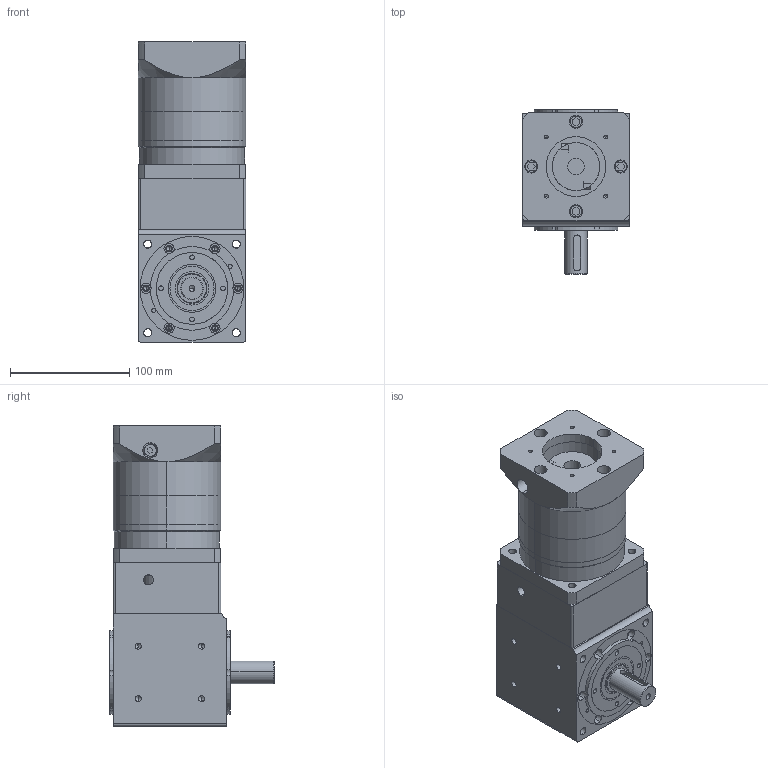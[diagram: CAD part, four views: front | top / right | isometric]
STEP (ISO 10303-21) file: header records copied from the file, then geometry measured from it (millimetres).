
FILE_DESCRIPTION (( 'STEP AP203' ), '1' );
FILE_NAME ('PVFD090-L2(400W）.STEP', '2021-09-06T10:05:33', ( 'User' ), ( 'China' ), 'SwSTEP 2.0', 'SolidWorks 2015', '' );
FILE_SCHEMA (( 'CONFIG_CONTROL_DESIGN' ));
Length unit declared in the file: millimetre
Products named in the file (13): PVFD090標杶; PVFD090蹟譫; PVFD090怀堤粣; PLF090单级三维图400W; PVFD090输入轴; PVFDo9o眊极; 25-40-7蚐猾; PVFD090͹̨; PVFD090单轴装配图   （750W）; deep groove ball bearings gb_Rolling bearings 6005 GB 276-94; PVFD090-L2(400W）; tapered roller bearings gb_Rolling bearings 32005 GB 297-94; PVFD090綴楊擘
Assembly tree (16 placements, depth 3):
  PVFD090-L2(400W）
    PLF090单级三维图400W
    PVFD090单轴装配图   （750W）
      PVFDo9o眊极
      PVFD090͹̨  x2
      deep groove ball bearings gb_Rolling bearings 6005 GB 276-94  x2
      tapered roller bearings gb_Rolling bearings 32005 GB 297-94
      PVFD090綴楊擘
      PVFD090標杶
      PVFD090蹟譫  x2
      PVFD090怀堤粣
      PVFD090输入轴
      25-40-7蚐猾  x2
Bounding box: 90 x 138 x 251.5 mm (x, y, z)
Volume: 1572431.6 mm3; surface area: 339470.4 mm2
Topology: 17 solids, 17 shells, 1301 faces, 4115 edges, 2666 vertices
Faces by surface type: cylinder 501, plane 336, torus 224, cone 164, sphere 76
Entity records: 42599 total; most frequent: CARTESIAN_POINT 12705, ORIENTED_EDGE 6160, DIRECTION 5885, EDGE_CURVE 3080, AXIS2_PLACEMENT_3D 2472, VERTEX_POINT 2021, CIRCLE 1371, EDGE_LOOP 1319
